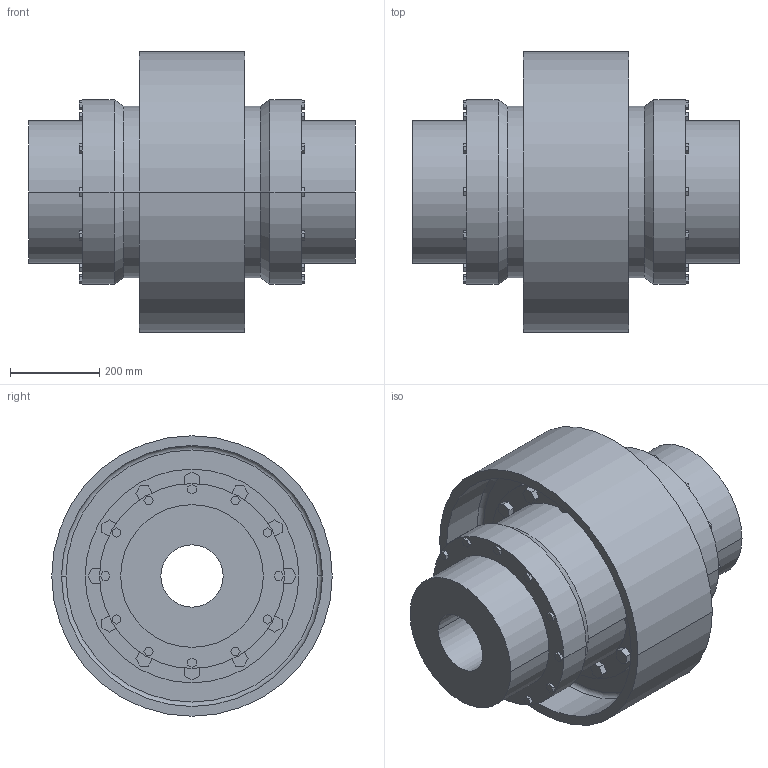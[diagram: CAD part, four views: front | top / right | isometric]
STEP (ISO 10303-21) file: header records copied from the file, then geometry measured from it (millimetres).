
FILE_DESCRIPTION((''),'2;1');
FILE_NAME('A19736700-0_ASM','2019-05-23T',('AB_Roschiwal'),('RENK AG'),'PRO/ENGINEER BY PARAMETRIC TECHNOLOGY CORPORATION, 2015440','PRO/ENGINEER BY PARAMETRIC TECHNOLOGY CORPORATION, 2015440','');
FILE_SCHEMA(('CONFIG_CONTROL_DESIGN'));
Length unit declared in the file: millimetre
Products named in the file (4): SBKD200_GEHAEUSE; SBKD200_NABE; SBKD200_BREMSSCHEIBE; A19736700-0_ASM
Assembly tree (4 placements, depth 2):
  A19736700-0_ASM
    SBKD200_GEHAEUSE
    SBKD200_NABE  x2
    SBKD200_BREMSSCHEIBE
Bounding box: 734 x 630 x 630 mm (x, y, z)
Volume: 64269873.8 mm3; surface area: 3942590.6 mm2
Topology: 4 solids, 4 shells, 474 faces, 1164 edges, 772 vertices
Faces by surface type: plane 370, cylinder 96, cone 4, torus 4
Entity records: 13708 total; most frequent: CARTESIAN_POINT 2366, ORIENTED_EDGE 2280, DIRECTION 2264, EDGE_CURVE 1140, VECTOR 956, LINE 956, VERTEX_POINT 756, AXIS2_PLACEMENT_3D 654
